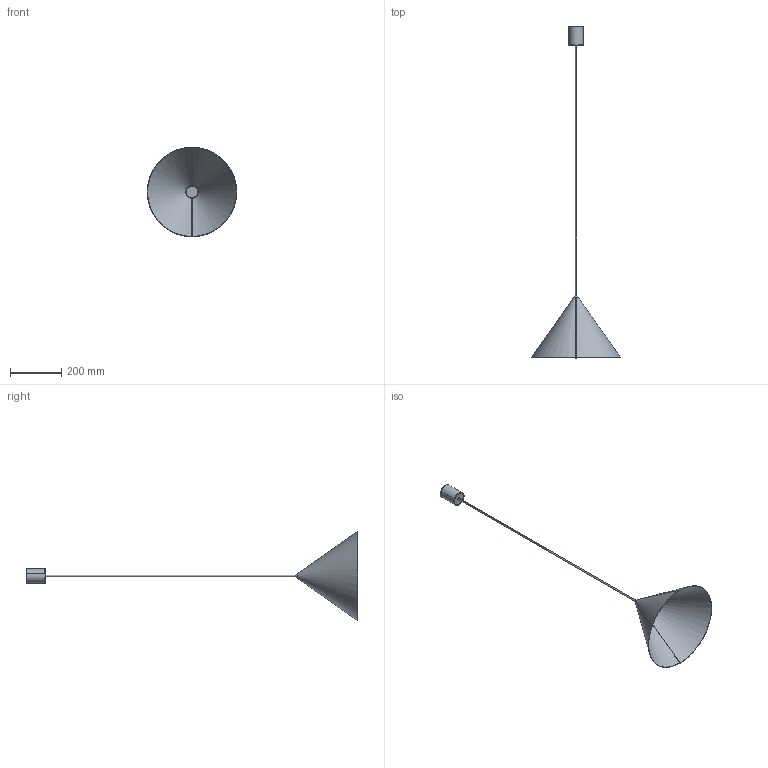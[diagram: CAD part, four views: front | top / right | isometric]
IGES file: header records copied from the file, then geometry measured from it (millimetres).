
Start section: SolidWorks IGES file using analytic representation for surfaces
Global section: file name: Z:\Modele 3D_WWW\_KOLEKCJE_WWW\ZENITH\ZENITH-M-8001-8002-8003-8004\ZENITH-M-8001-8002-8003-8004.IGS; native system: SolidWorks 2020; preprocessor: SolidWorks 2020; author: gabriela.tworek; date: 210316.083703; units: millimetre
Bounding box: 350 x 1300 x 350 mm (x, y, z)
Surface area: 405662.5 mm2 (no closed solid volume)
Topology: 0 solids, 0 shells, 126 faces, 2863 edges, 2863 vertices
Faces by surface type: revolution 72, bspline 54
